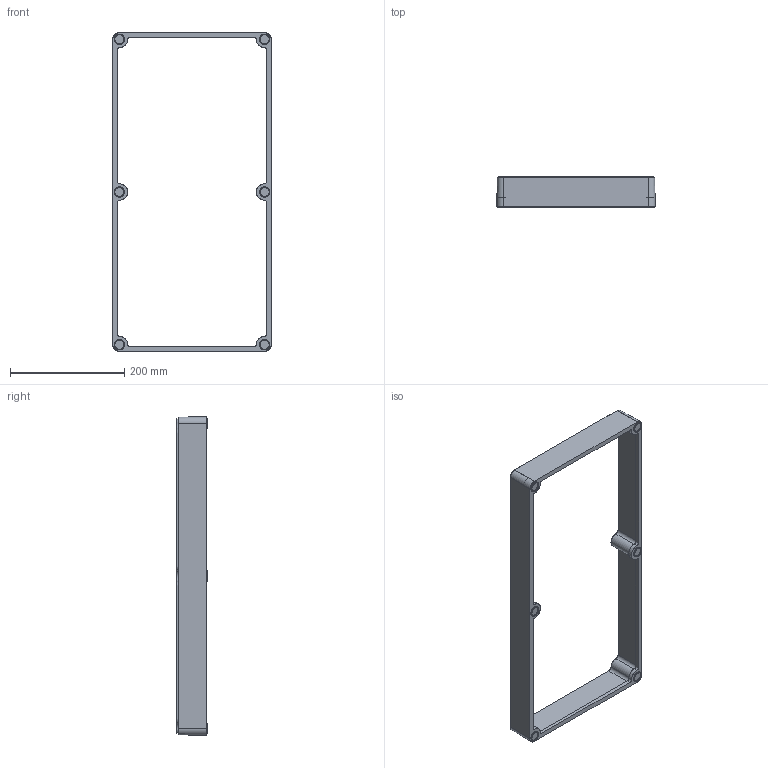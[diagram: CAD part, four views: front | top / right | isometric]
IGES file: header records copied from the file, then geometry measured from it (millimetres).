
Start section: SolidWorks IGES file using analytic representation for surfaces
Global section: file name: G:\3DRAW\EK\3DCAM\Covers etc\IGS\FIBOX_EKTZR_Extensionframe.IGS; native system: SolidWorks 2006 by SolidWorks Corporation; preprocessor: SolidWorks 2006 by SolidWorks Corporation; author: OlliKo; date: 051208.111409; units: millimetre
Bounding box: 277 x 54.5 x 557 mm (x, y, z)
Surface area: 216214.2 mm2 (no closed solid volume)
Topology: 0 solids, 0 shells, 138 faces, 2464 edges, 2464 vertices
Faces by surface type: revolution 94, bspline 44
